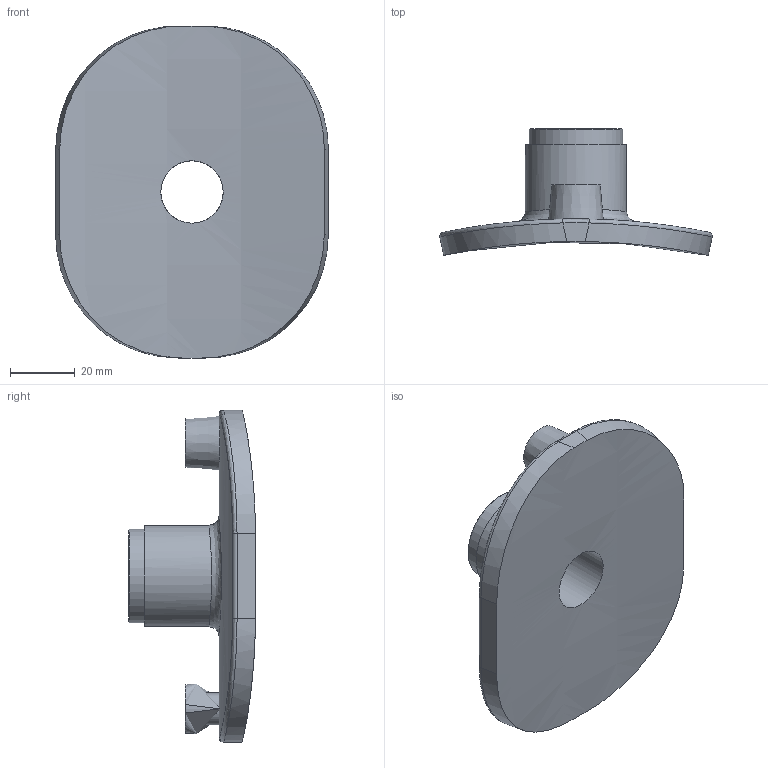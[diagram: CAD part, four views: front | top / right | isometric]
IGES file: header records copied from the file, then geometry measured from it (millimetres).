
Global section: file name: 5938S3400007.ipt; native system: Autodesk Inventor 2019; preprocessor: unknown; author: 12HКирилл; date: 20210830.101203; units: inch
Bounding box: 84.39 x 39.25 x 102.87 mm (x, y, z)
Volume: 61573.2 mm3; surface area: 23277.9 mm2
Topology: 1 solids, 2 shells, 41 faces, 83 edges, 54 vertices
Faces by surface type: plane 12, cylinder 12, revolution 9, bspline 5, cone 3
Full cylindrical faces by diameter (mm): 4 x2, 28.94 x1, 31.352 x1
